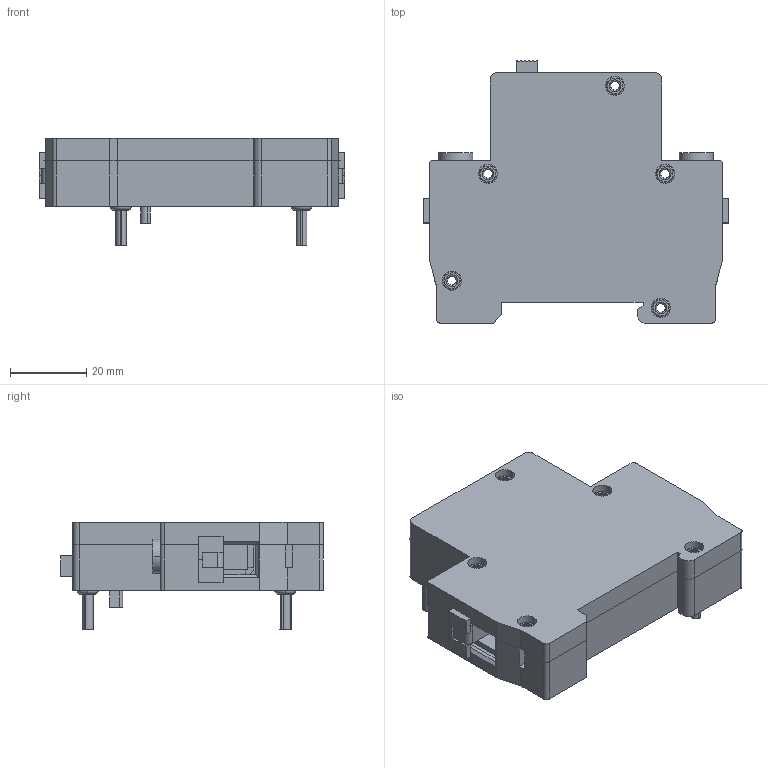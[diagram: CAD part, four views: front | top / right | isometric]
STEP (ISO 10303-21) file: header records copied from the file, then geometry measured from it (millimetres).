
FILE_DESCRIPTION (( 'STEP AP214' ), '1' );
FILE_NAME ('臍47 迖230 .STEP', '2022-11-18T10:19:41', ( '' ), ( '' ), 'SwSTEP 2.0', 'SolidWorks 2018', '' );
FILE_SCHEMA (( 'AUTOMOTIVE_DESIGN' ));
Length unit declared in the file: millimetre
Products named in the file (11): 扱闀罻 蠈嚦 斂12 OFA 04.2022; Áîêîâèíà ïðàâàÿ (ÍÐ Changan) 04.2022; 鎔艜 (臍47-29) 14.02.2022; ﾂ鏆鮏 (ﾍﾐ Changan) 04.2022; 臍47 迖230 ; ﾘ ﾍﾐ Cangan; Èìèòàöèÿ ðåéêè ÍÐ Changan; Çàêëåïêà (ÍÐ Changan) 04.2022_1 ¯®«îá; Êíîïêà âîçâðàò; Êîëîäêà (ÂÀ47-29) 14.02.2022; Áîêîâèíà ëåâàÿ (ÍÐ Changan) 04.2022
Assembly tree (18 placements, depth 2):
  臍47 迖230 
    Áîêîâèíà ïðàâàÿ (ÍÐ Changan) 04.2022
    Áîêîâèíà ëåâàÿ (ÍÐ Changan) 04.2022
    Çàêëåïêà (ÍÐ Changan) 04.2022_1 ¯®«îá  x5
    鎔艜 (臍47-29) 14.02.2022  x2
    ﾂ鏆鮏 (ﾍﾐ Changan) 04.2022  x2
    Êîëîäêà (ÂÀ47-29) 14.02.2022  x2
    扱闀罻 蠈嚦 斂12 OFA 04.2022
    Êíîïêà âîçâðàò
    ﾘ ﾍﾐ Cangan  x2
    Èìèòàöèÿ ðåéêè ÍÐ Changan
Bounding box: 80.2 x 68.9 x 28.2 mm (x, y, z)
Volume: 65020.5 mm3; surface area: 31414.8 mm2
Topology: 18 solids, 18 shells, 783 faces, 2019 edges, 1290 vertices
Faces by surface type: plane 521, cylinder 190, torus 72
Entity records: 16787 total; most frequent: CARTESIAN_POINT 2916, ORIENTED_EDGE 2790, DIRECTION 2785, EDGE_CURVE 1395, VECTOR 1047, LINE 1047, VERTEX_POINT 904, AXIS2_PLACEMENT_3D 869
